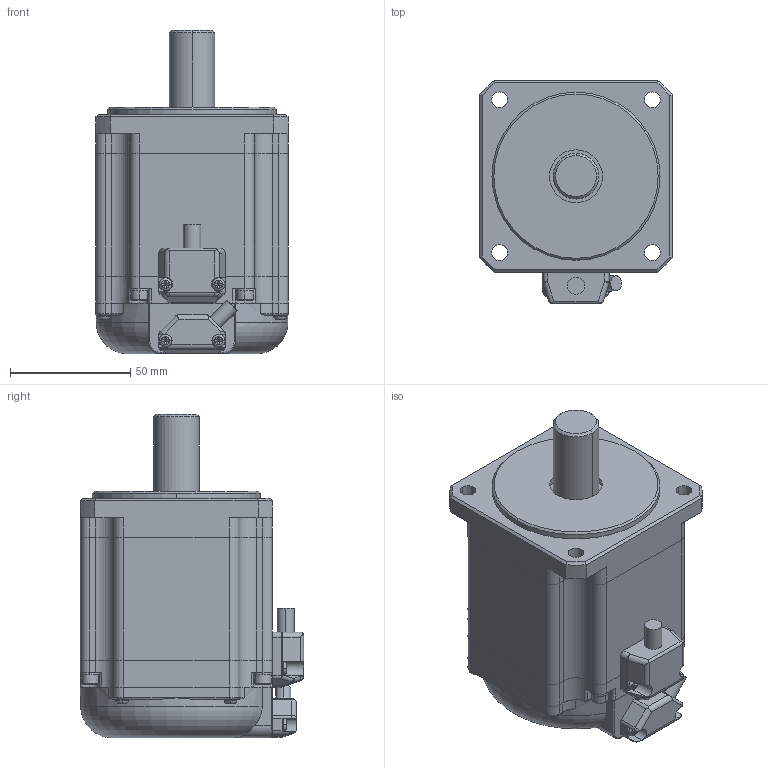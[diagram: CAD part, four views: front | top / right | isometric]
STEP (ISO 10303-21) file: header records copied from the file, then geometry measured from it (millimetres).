
FILE_DESCRIPTION(('Creo Elements/Direct Modeling STEP Export'),'2;1');
FILE_NAME('TS4613_BK無.stp','2016-12-22T16:43:01',(''),(''),'Creo Elements/Direct Modeling STEP processor for AP214 (Solid Model)','Creo Elements/Direct Modeling 17.0F 20-Aug-2012 (C) Parametric Technology GmbH','');
FILE_SCHEMA(('AUTOMOTIVE_DESIGN { 1 0 10303 214 1 1 1 1 }'));
Length unit declared in the file: millimetre
Products named in the file (2): TS4613N1000; ﾓｰﾀ
Assembly tree (1 placements, depth 2):
  ﾓｰﾀ
    TS4613N1000
Bounding box: 80 x 93 x 134.7 mm (x, y, z)
Volume: 579395.2 mm3; surface area: 46294 mm2
Topology: 1 solids, 1 shells, 639 faces, 1503 edges, 866 vertices
Faces by surface type: plane 318, cylinder 215, cone 40, sphere 29, torus 27, bspline 10
Entity records: 19347 total; most frequent: CARTESIAN_POINT 4506, ORIENTED_EDGE 2964, DIRECTION 2856, EDGE_CURVE 1482, AXIS2_PLACEMENT_3D 1097, VERTEX_POINT 866, EDGE_LOOP 668, VECTOR 662
